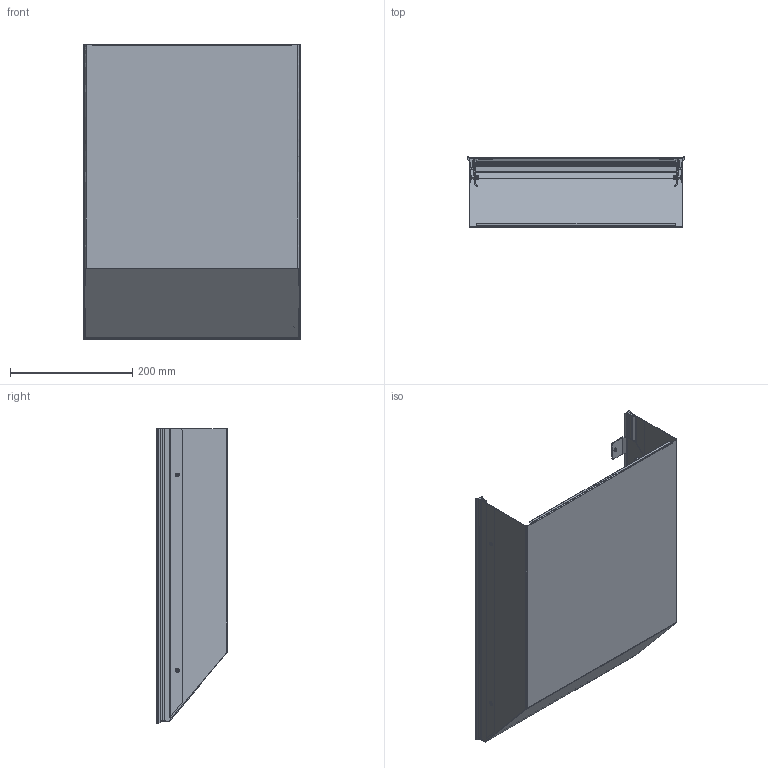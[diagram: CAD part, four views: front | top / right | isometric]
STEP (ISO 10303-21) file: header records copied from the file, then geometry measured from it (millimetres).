
FILE_DESCRIPTION(/* description */ (''),/* implementation_level */ '2;1');
FILE_NAME(/* name */ 'SSC-20A',/* time_stamp */ '2020-03-11T10:27:51+01:00',/* author */ (''),/* organization */ (''),/* preprocessor_version */ 'ST-DEVELOPER v14',/* originating_system */ '',/* authorisation */ '');
FILE_SCHEMA (('CONFIG_CONTROL_DESIGN'));
Length unit declared in the file: millimetre
Products named in the file (1): Document
Bounding box: 355.4 x 115.56 x 482.9 mm (x, y, z)
Volume: 10531.8 mm3; surface area: 825111.1 mm2
Topology: 5 solids, 11 shells, 549 faces, 1521 edges, 902 vertices
Faces by surface type: bspline 342, plane 207
Entity records: 22217 total; most frequent: CARTESIAN_POINT 13468, ORIENTED_EDGE 2790, EDGE_CURVE 1513, B_SPLINE_CURVE_WITH_KNOTS 1064, VERTEX_POINT 902, EDGE_LOOP 589, ADVANCED_FACE 549, FACE_OUTER_BOUND 549
